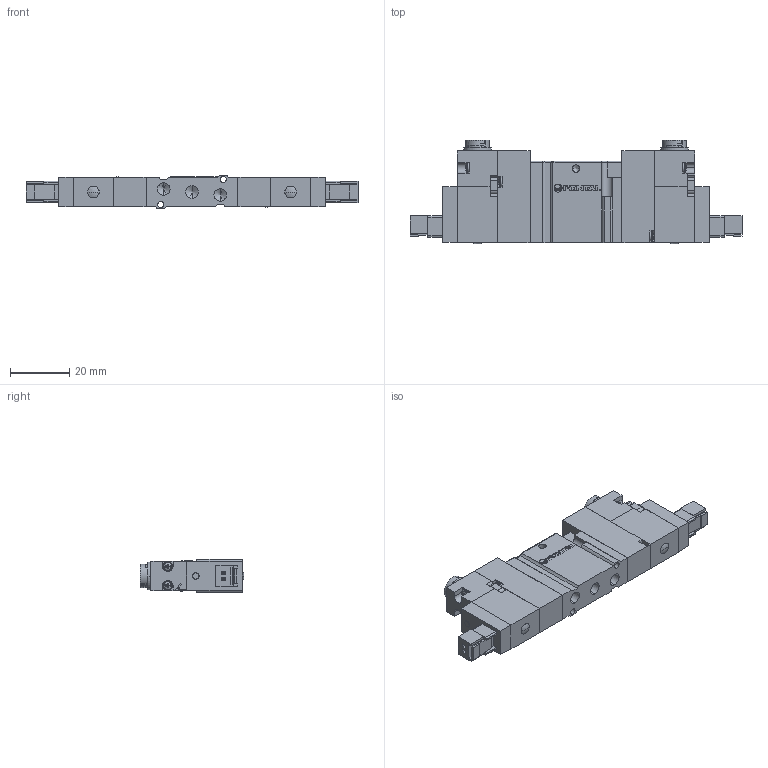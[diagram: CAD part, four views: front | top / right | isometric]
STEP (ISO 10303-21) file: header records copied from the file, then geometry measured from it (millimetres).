
FILE_DESCRIPTION (( 'STEP AP203' ), '1' );
FILE_NAME ('A05RD25#-#-#-E.STEP', '2016-02-04T02:06:28', ( 'Sam Lin' ), ( '' ), 'SwSTEP 2.0', 'SolidWorks 2013', '' );
FILE_SCHEMA (( 'CONFIG_CONTROL_DESIGN' ));
Length unit declared in the file: metre
Products named in the file (13): A05RS25-5; A05RS25-6; A05RS25-7; A05RS25-8; A05RS25-#-#-#; A05RS25-9; A05RS25-2; A05RS25-10; ISO 7045 - M1.6 x 10; mark-ADEX-A05RS; A05RS25-3; A05RD25#-#-#-E; A05RS25-4
Assembly tree (30 placements, depth 2):
  A05RD25#-#-#-E
    A05RS25-#-#-#
    A05RS25-2  x2
    ISO 7045 - M1.6 x 10  x8
    A05RS25-3  x2
    A05RS25-4  x2
    A05RS25-5  x2
    A05RS25-6  x4
    A05RS25-7  x2
    A05RS25-8  x2
    A05RS25-9  x2
    A05RS25-10  x2
    mark-ADEX-A05RS
Bounding box: 112 x 35 x 11.4 mm (x, y, z)
Volume: 23725.6 mm3; surface area: 16377.7 mm2
Topology: 38 solids, 38 shells, 995 faces, 2512 edges, 1593 vertices
Faces by surface type: plane 639, cylinder 190, cone 92, bspline 74
Entity records: 15967 total; most frequent: CARTESIAN_POINT 3264, ORIENTED_EDGE 2254, DIRECTION 2215, EDGE_CURVE 1127, LINE 789, VECTOR 789, VERTEX_POINT 734, AXIS2_PLACEMENT_3D 713
